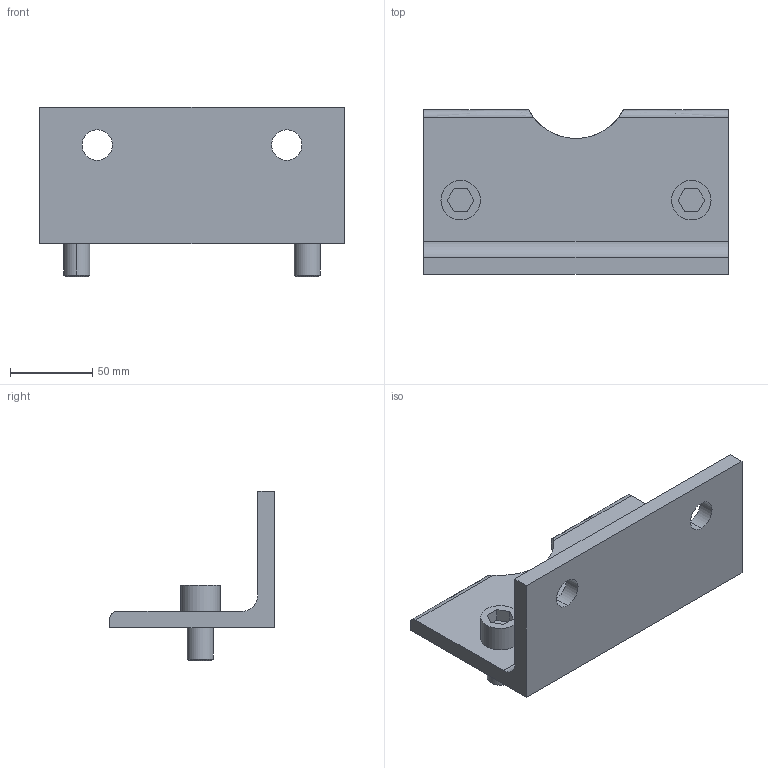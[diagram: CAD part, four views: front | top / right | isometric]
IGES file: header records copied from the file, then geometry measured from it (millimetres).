
Start section:  PTC IGES file: 1827001457\1827001457.iges
Global section: file name: 1827001457\1827001457.iges; native system: Creo Parametric by PTC Inc.; preprocessor: 2023092; author: THD3HC; organization: Unknown; date: 20240711.175730; units: millimetre
Bounding box: 185 x 100 x 103 mm (x, y, z)
Surface area: 76141.7 mm2 (no closed solid volume)
Topology: 0 solids, 0 shells, 53 faces, 250 edges, 250 vertices
Faces by surface type: bspline 29, revolution 24
